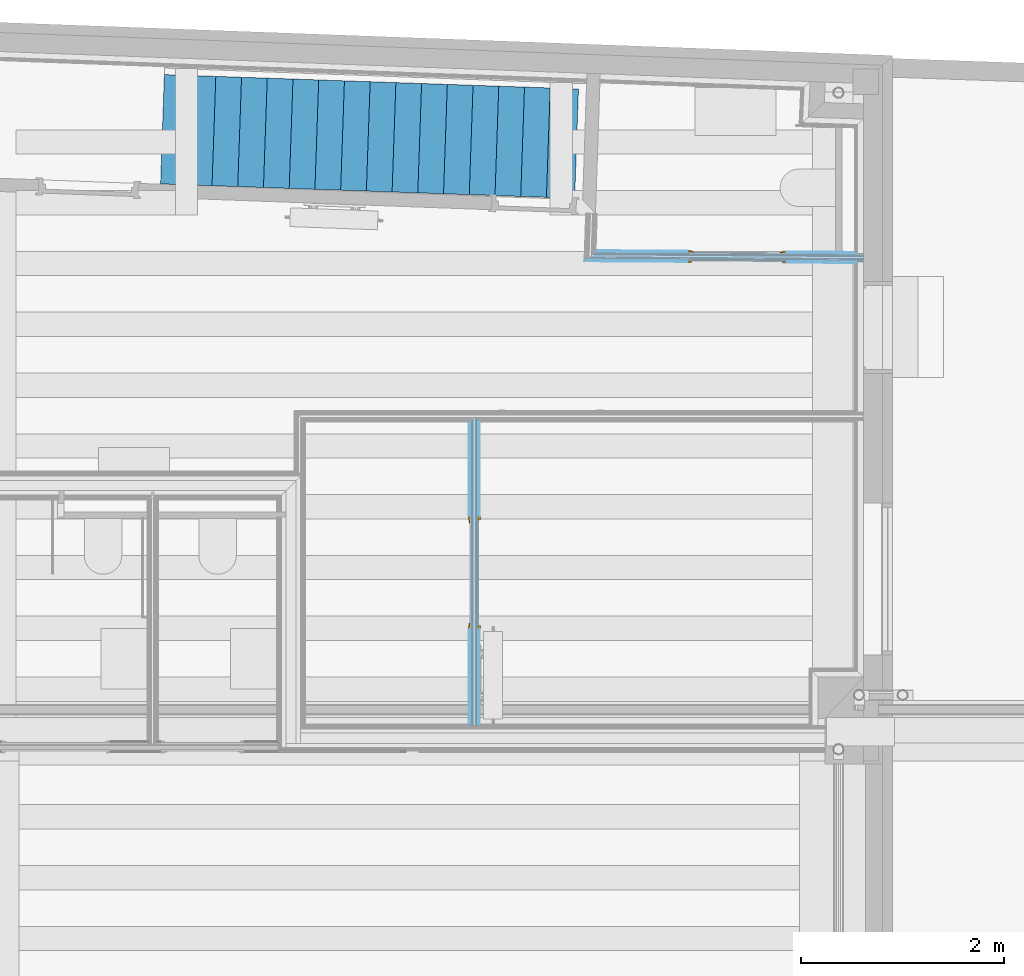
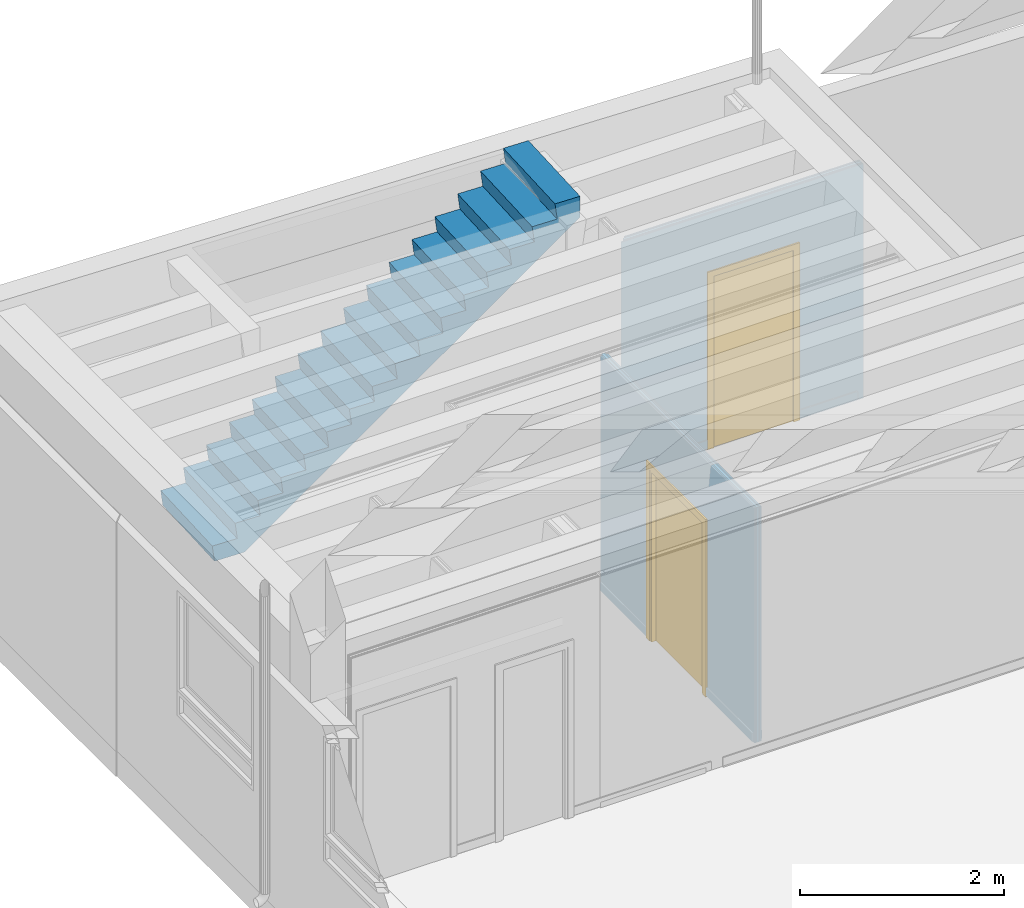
# One storey, part 26 of 106: 2 doors, 1 stair, 2 openings, 2 elements without a shape of their own, plus 14 elements that do not belong to this part.
"""IFC2X3 building model written with IfcOpenShell, lengths in metres."""

from ifc_helpers import new_model, entity, si_unit, converted_unit, derived_unit, money_unit, direction, frame, frame_2d, origin_with_axes, place, context, subcontext, project, spatial, polyline, rectangle, outline, extrude, faceted_brep, material, type_object, element, fill, aggregate, save


model = new_model("IFC2X3")

# Units and contexts
model_context = context("Model", 3, precision=1e-05, world=origin_with_axes(), true_north=direction((0.0, 1.0)))
body_context = subcontext(model_context, "Body", "Model", "MODEL_VIEW", scale=1.0)
ifc_project = project(units=[si_unit("LENGTHUNIT", "METRE"), si_unit("AREAUNIT", "SQUARE_METRE"), si_unit("VOLUMEUNIT", "CUBIC_METRE"), si_unit("ABSORBEDDOSEUNIT", "GRAY"), si_unit("AMOUNTOFSUBSTANCEUNIT", "MOLE"), si_unit("DOSEEQUIVALENTUNIT", "SIEVERT"), si_unit("ELECTRICCAPACITANCEUNIT", "FARAD"), si_unit("ELECTRICCHARGEUNIT", "COULOMB"), si_unit("ELECTRICCONDUCTANCEUNIT", "SIEMENS"), si_unit("ELECTRICCURRENTUNIT", "AMPERE"), si_unit("ELECTRICRESISTANCEUNIT", "OHM"), si_unit("ELECTRICVOLTAGEUNIT", "VOLT"), si_unit("ENERGYUNIT", "JOULE"), si_unit("FORCEUNIT", "NEWTON"), si_unit("FREQUENCYUNIT", "HERTZ"), si_unit("ILLUMINANCEUNIT", "LUX"), si_unit("INDUCTANCEUNIT", "HENRY"), si_unit("LUMINOUSFLUXUNIT", "LUMEN"), si_unit("LUMINOUSINTENSITYUNIT", "CANDELA"), si_unit("MAGNETICFLUXDENSITYUNIT", "TESLA"), si_unit("MAGNETICFLUXUNIT", "WEBER"), si_unit("MASSUNIT", "GRAM"), converted_unit("PLANEANGLEUNIT", "degree", entity("IfcReal", 0.0174532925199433), si_unit("PLANEANGLEUNIT", "RADIAN"), dimensions=[0, 0, 0, 0, 0, 0, 0]), si_unit("POWERUNIT", "WATT"), si_unit("PRESSUREUNIT", "PASCAL"), si_unit("RADIOACTIVITYUNIT", "BECQUEREL"), si_unit("SOLIDANGLEUNIT", "STERADIAN"), si_unit("THERMODYNAMICTEMPERATUREUNIT", "KELVIN"), si_unit("TIMEUNIT", "SECOND"), derived_unit("ACCELERATIONUNIT", [(si_unit("LENGTHUNIT", "METRE"), 1), (si_unit("TIMEUNIT", "SECOND"), -2)]), derived_unit("ANGULARVELOCITYUNIT", [(converted_unit("PLANEANGLEUNIT", "degree", entity("IfcReal", 0.0174532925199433), si_unit("PLANEANGLEUNIT", "RADIAN"), dimensions=[0, 0, 0, 0, 0, 0, 0]), 1), (si_unit("TIMEUNIT", "SECOND"), -1)]), derived_unit("CURVATUREUNIT", [(converted_unit("PLANEANGLEUNIT", "degree", entity("IfcReal", 0.0174532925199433), si_unit("PLANEANGLEUNIT", "RADIAN"), dimensions=[0, 0, 0, 0, 0, 0, 0]), 1), (si_unit("LENGTHUNIT", "METRE"), -1)]), derived_unit("DYNAMICVISCOSITYUNIT", [(si_unit("PRESSUREUNIT", "PASCAL"), 1), (si_unit("TIMEUNIT", "SECOND"), 1)]), derived_unit("HEATFLUXDENSITYUNIT", [(si_unit("POWERUNIT", "WATT"), 1), (si_unit("LENGTHUNIT", "METRE"), -2)]), derived_unit("HEATINGVALUEUNIT", [(si_unit("ENERGYUNIT", "JOULE"), 1), (si_unit("MASSUNIT", "GRAM"), -1)]), derived_unit("INTEGERCOUNTRATEUNIT", [(si_unit("TIMEUNIT", "SECOND"), -1)]), derived_unit("IONCONCENTRATIONUNIT", [(si_unit("MASSUNIT", "GRAM"), 1), (si_unit("VOLUMEUNIT", "CUBIC_METRE"), -1)]), derived_unit("ISOTHERMALMOISTURECAPACITYUNIT", [(si_unit("VOLUMEUNIT", "CUBIC_METRE"), 1), (si_unit("MASSUNIT", "GRAM"), -1)]), derived_unit("KINEMATICVISCOSITYUNIT", [(si_unit("AREAUNIT", "SQUARE_METRE"), 1), (si_unit("TIMEUNIT", "SECOND"), -1)]), derived_unit("LINEARFORCEUNIT", [(si_unit("FORCEUNIT", "NEWTON"), 1), (si_unit("LENGTHUNIT", "METRE"), -1)]), derived_unit("LINEARMOMENTUNIT", [(si_unit("FORCEUNIT", "NEWTON"), 1), (si_unit("LENGTHUNIT", "METRE"), -1)]), derived_unit("LINEARSTIFFNESSUNIT", [(si_unit("FORCEUNIT", "NEWTON"), 1), (si_unit("LENGTHUNIT", "METRE"), -1)]), derived_unit("LINEARVELOCITYUNIT", [(si_unit("LENGTHUNIT", "METRE"), 1), (si_unit("TIMEUNIT", "SECOND"), -1)]), derived_unit("LUMINOUSINTENSITYDISTRIBUTIONUNIT", [(si_unit("LUMINOUSINTENSITYUNIT", "CANDELA"), 1), (si_unit("LUMINOUSFLUXUNIT", "LUMEN"), -1)]), derived_unit("MASSDENSITYUNIT", [(si_unit("MASSUNIT", "GRAM"), 1), (si_unit("VOLUMEUNIT", "CUBIC_METRE"), -1)]), derived_unit("MASSFLOWRATEUNIT", [(si_unit("MASSUNIT", "GRAM"), 1), (si_unit("TIMEUNIT", "SECOND"), -1)]), derived_unit("MASSPERLENGTHUNIT", [(si_unit("MASSUNIT", "GRAM"), 1), (si_unit("LENGTHUNIT", "METRE"), -1)]), derived_unit("MODULUSOFELASTICITYUNIT", [(si_unit("FORCEUNIT", "NEWTON"), 1), (si_unit("AREAUNIT", "SQUARE_METRE"), -1)]), derived_unit("MODULUSOFLINEARSUBGRADEREACTIONUNIT", [(si_unit("FORCEUNIT", "NEWTON"), 1), (si_unit("LENGTHUNIT", "METRE"), -2)]), derived_unit("MODULUSOFROTATIONALSUBGRADEREACTIONUNIT", [(si_unit("FORCEUNIT", "NEWTON"), 1), (si_unit("LENGTHUNIT", "METRE"), 1)]), derived_unit("MODULUSOFSUBGRADEREACTIONUNIT", [(si_unit("FORCEUNIT", "NEWTON"), 1), (si_unit("VOLUMEUNIT", "CUBIC_METRE"), -1)]), derived_unit("MOISTUREDIFFUSIVITYUNIT", [(si_unit("VOLUMEUNIT", "CUBIC_METRE"), 1), (si_unit("TIMEUNIT", "SECOND"), -1)]), derived_unit("MOLECULARWEIGHTUNIT", [(si_unit("MASSUNIT", "GRAM"), 1), (si_unit("AMOUNTOFSUBSTANCEUNIT", "MOLE"), -1)]), derived_unit("PLANARFORCEUNIT", [(si_unit("FORCEUNIT", "NEWTON"), 1), (si_unit("LENGTHUNIT", "METRE"), -2)]), derived_unit("ROTATIONALFREQUENCYUNIT", [(si_unit("TIMEUNIT", "SECOND"), -1)]), derived_unit("ROTATIONALMASSUNIT", [(si_unit("MASSUNIT", "GRAM"), 1), (si_unit("LENGTHUNIT", "METRE"), 2)]), derived_unit("ROTATIONALSTIFFNESSUNIT", [(si_unit("FORCEUNIT", "NEWTON"), 1), (si_unit("LENGTHUNIT", "METRE"), 1), (converted_unit("PLANEANGLEUNIT", "degree", entity("IfcReal", 0.0174532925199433), si_unit("PLANEANGLEUNIT", "RADIAN"), dimensions=[0, 0, 0, 0, 0, 0, 0]), -1)]), derived_unit("SECTIONAREAINTEGRALUNIT", [(si_unit("LENGTHUNIT", "METRE"), 5)]), derived_unit("SECTIONMODULUSUNIT", [(si_unit("LENGTHUNIT", "METRE"), 3)]), derived_unit("SHEARMODULUSUNIT", [(si_unit("FORCEUNIT", "NEWTON"), 1), (si_unit("AREAUNIT", "SQUARE_METRE"), -1)]), derived_unit("SOUNDPOWERUNIT", [(si_unit("ENERGYUNIT", "JOULE"), 1), (si_unit("TIMEUNIT", "SECOND"), -1)]), derived_unit("SPECIFICHEATCAPACITYUNIT", [(si_unit("FORCEUNIT", "NEWTON"), 1), (si_unit("MASSUNIT", "GRAM"), -1), (si_unit("THERMODYNAMICTEMPERATUREUNIT", "KELVIN"), -1)]), derived_unit("TEMPERATUREGRADIENTUNIT", [(si_unit("THERMODYNAMICTEMPERATUREUNIT", "KELVIN"), 1), (si_unit("LENGTHUNIT", "METRE"), -1)]), derived_unit("THERMALADMITTANCEUNIT", [(si_unit("POWERUNIT", "WATT"), 1), (si_unit("AREAUNIT", "SQUARE_METRE"), -1), (si_unit("THERMODYNAMICTEMPERATUREUNIT", "KELVIN"), -1)]), derived_unit("THERMALCONDUCTANCEUNIT", [(si_unit("POWERUNIT", "WATT"), 1), (si_unit("LENGTHUNIT", "METRE"), -1), (si_unit("THERMODYNAMICTEMPERATUREUNIT", "KELVIN"), -1)]), derived_unit("THERMALEXPANSIONCOEFFICIENTUNIT", [(si_unit("THERMODYNAMICTEMPERATUREUNIT", "KELVIN"), -1)]), derived_unit("THERMALRESISTANCEUNIT", [(si_unit("AREAUNIT", "SQUARE_METRE"), 1), (si_unit("POWERUNIT", "WATT"), -1)]), derived_unit("THERMALTRANSMITTANCEUNIT", [(si_unit("POWERUNIT", "WATT"), 1), (si_unit("AREAUNIT", "SQUARE_METRE"), -1), (si_unit("THERMODYNAMICTEMPERATUREUNIT", "KELVIN"), -1)]), derived_unit("TORQUEUNIT", [(si_unit("FORCEUNIT", "NEWTON"), 1), (si_unit("LENGTHUNIT", "METRE"), 1)]), derived_unit("VAPORPERMEABILITYUNIT", [(si_unit("MASSUNIT", "GRAM"), 1), (si_unit("TIMEUNIT", "SECOND"), -1)]), derived_unit("VOLUMETRICFLOWRATEUNIT", [(si_unit("VOLUMEUNIT", "CUBIC_METRE"), 1), (si_unit("TIMEUNIT", "SECOND"), -1)]), derived_unit("WARPINGCONSTANTUNIT", [(si_unit("LENGTHUNIT", "METRE"), 6)]), derived_unit("WARPINGMOMENTUNIT", [(si_unit("FORCEUNIT", "NEWTON"), 1), (si_unit("LENGTHUNIT", "METRE"), 2)]), money_unit("GBP")], contexts=[model_context])

# Site, building, storey, space
site_placement = place(None, origin_with_axes())
site = spatial("IfcSite", under=ifc_project, at=site_placement, Name="Site", CompositionType="ELEMENT")
building_placement = place(site_placement, origin_with_axes())
building = spatial("IfcBuilding", under=site, at=building_placement, Name="Building01", CompositionType="ELEMENT")
storey_placement = place(building_placement, origin_with_axes())
storey = spatial("IfcBuildingStorey", under=building, at=storey_placement, Name="GF", CompositionType="ELEMENT", Elevation=0.0)
space_placement = place(storey_placement, frame((8.552822, 20.936203, 0.217025), z_axis=(0.0, 0.0, 1.0), x_axis=(-0.99931258, 0.03707243, 0.0)))
space = spatial("IfcSpace", under=storey, at=space_placement, Name="01", CompositionType="ELEMENT", InteriorOrExteriorSpace="NOTDEFINED")

# Door
ifc_material_1 = material(Name="A_BSUK_Doors")
door_style_1 = type_object("IfcDoorStyle", Name="A-Doors-SingleFlush", ConstructionType="USERDEFINED", OperationType="SINGLE_SWING_RIGHT", ParameterTakesPrecedence=False, Sizeable=False)
wall_1_placement = place(storey_placement, frame((9.154265, 19.280573, 0.148), z_axis=(0.0, 0.0, 1.0), x_axis=(-0.99997749, 0.00671026, 0.0)))
opening_1_placement = place(wall_1_placement, frame((0.755168, -0.042, 0.0), z_axis=(0.0, 0.0, 1.0), x_axis=(1.0, 0.0, 0.0)))
door_1_placement = place(opening_1_placement, frame((0.042237, 0.094895, 0.0), z_axis=(0.0, 0.0, 1.0), x_axis=(0.99999689, -0.00249226, 0.0)))
door_1 = element("IfcDoor", 1, at=door_1_placement, inside=space, type_object=door_style_1, material=ifc_material_1, Name="0.11", ObjectType="A-Doors-SingleFlush", OverallHeight=2.12700000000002, OverallWidth=1.03800000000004, context=body_context, shape_type="Brep", body=[
    faceted_brep([(0.9, -0.099, 0.0), (0.969, -0.099, 0.0), (0.969, -0.099, 2.127), (-0.069, -0.099, 2.127), (-0.069, -0.099, 0.0), (0.0, -0.099, 0.0), (0.0, -0.099, 2.058), (0.9, -0.099, 2.058), (-0.069, -0.08, 0.0), (-0.069, -0.08, 2.127), (0.969, -0.08, 2.127), (0.969, -0.08, 0.0), (0.9, 0.019, 0.0), (0.969, 0.019, 0.0), (0.969, 0.0, 0.0), (0.942, 0.0, 0.0), (0.942, -0.08, 0.0), (0.9, 0.019, 2.058), (0.0, 0.019, 2.058), (0.0, 0.019, 0.0), (-0.069, 0.019, 0.0), (-0.069, 0.019, 2.127), (0.969, 0.019, 2.127), (0.969, 0.0, 2.127), (0.942, -0.08, 2.1), (0.942, 0.0, 2.1), (-0.042, -0.08, 2.1), (-0.042, 0.0, 2.1), (-0.042, -0.08, 0.0), (-0.042, 0.0, 0.0), (-0.069, 0.0, 2.127), (-0.069, 0.0, 0.0)], [[[0, 1, 2, 3, 4, 5, 6, 7]], [[8, 4, 3, 9]], [[10, 2, 1, 11]], [[9, 3, 2, 10]], [[12, 13, 14, 15, 16, 11, 1, 0]], [[7, 17, 12, 0]], [[6, 18, 17, 7]], [[18, 19, 20, 21, 22, 13, 12, 17]], [[5, 19, 18, 6]], [[13, 22, 23, 14]], [[24, 16, 15, 25]], [[26, 24, 25, 27]], [[11, 16, 24, 26, 28, 8, 9, 10]], [[27, 29, 28, 26]], [[25, 15, 14, 23, 30, 31, 29, 27]], [[5, 4, 8, 28, 29, 31, 20, 19]], [[30, 21, 20, 31]], [[23, 22, 21, 30]]]),
    faceted_brep([(0.0, -0.09, 2.058), (0.0, -0.04, 2.058), (0.0, -0.04, 0.0), (0.0, -0.09, 0.0), (0.875, -0.09, 0.0), (0.9, -0.09, 0.0), (0.9, -0.09, 2.058), (0.025, -0.09, 0.0), (0.025, -0.09, 2.033), (0.875, -0.09, 2.033), (0.875, -0.04, 0.0), (0.9, -0.04, 0.0), (0.9, -0.04, 2.058), (0.025, -0.04, 2.033), (0.025, -0.04, 0.0), (0.875, -0.04, 2.033)], [[[0, 1, 2, 3]], [[4, 5, 6, 0, 3, 7, 8, 9]], [[10, 11, 5, 4]], [[6, 12, 1, 0]], [[5, 11, 12, 6]], [[13, 14, 2, 1, 12, 11, 10, 15]], [[7, 14, 13, 8]], [[7, 3, 2, 14]], [[9, 15, 10, 4]], [[8, 13, 15, 9]]]),
    faceted_brep([(0.9, -0.04, 0.0), (0.9, 0.0, 0.0), (0.9, 0.0, 2.058), (0.9, -0.04, 2.058), (0.0, -0.04, 2.058), (0.0, 0.0, 2.058), (0.0, 0.0, 0.0), (0.0, -0.04, 0.0)], [[[0, 1, 2, 3]], [[4, 5, 6, 7]], [[7, 6, 1, 0]], [[3, 4, 7, 0]], [[3, 2, 5, 4]], [[1, 6, 5, 2]]]),
])

door_style_2 = type_object("IfcDoorStyle", Name="A-Doors-DoubleFlush", ConstructionType="USERDEFINED", OperationType="DOUBLE_DOOR_SINGLE_SWING", ParameterTakesPrecedence=False, Sizeable=False)
wall_2_placement = place(storey_placement, frame((5.301256, 17.690571, 0.148), z_axis=(0.0, 0.0, 1.0), x_axis=(0.0, -1.0, 0.0)))
opening_2_placement = place(wall_2_placement, frame((0.971779, -0.042, -4e-06), z_axis=(0.0, 0.0, 1.0), x_axis=(1.0, 0.0, 0.0)))
door_2_placement = place(opening_2_placement, frame((0.042007, 0.094997, 4e-06), z_axis=(0.0, 0.0, 1.0), x_axis=(1.0, -3.756e-05, 0.0)))
door_2 = element("IfcDoor", 2, at=door_2_placement, inside=space, type_object=door_style_2, material=ifc_material_1, Name="0.17", ObjectType="A-Doors-DoubleFlush", OverallHeight=2.12700000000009, OverallWidth=1.17800000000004, context=body_context, shape_type="Brep", body=[
    faceted_brep([(0.0, -0.099, 2.058), (1.04, -0.099, 2.058), (1.04, -0.099, 0.0), (1.109, -0.099, 0.0), (1.109, -0.099, 2.127), (-0.069, -0.099, 2.127), (-0.069, -0.099, 0.0), (0.0, -0.099, 0.0), (1.109, -0.08, 2.127), (1.109, -0.08, 0.0), (-0.069, -0.08, 0.0), (-0.069, -0.08, 2.127), (-0.042, -0.08, 0.0), (-0.042, 0.0, 0.0), (-0.069, 0.0, 0.0), (-0.069, 0.019, 0.0), (0.0, 0.019, 0.0), (0.0, 0.019, 2.058), (1.04, 0.019, 2.058), (-0.069, 0.019, 2.127), (1.109, 0.019, 2.127), (1.109, 0.019, 0.0), (1.04, 0.019, 0.0), (-0.069, 0.0, 2.127), (-0.042, 0.0, 2.1), (-0.042, -0.08, 2.1), (1.082, 0.0, 2.1), (1.082, -0.08, 2.1), (1.082, -0.08, 0.0), (1.082, 0.0, 0.0), (1.109, 0.0, 0.0), (1.109, 0.0, 2.127)], [[[0, 1, 2, 3, 4, 5, 6, 7]], [[8, 4, 3, 9]], [[10, 6, 5, 11]], [[11, 5, 4, 8]], [[7, 6, 10, 12, 13, 14, 15, 16]], [[7, 16, 17, 0]], [[0, 17, 18, 1]], [[17, 16, 15, 19, 20, 21, 22, 18]], [[1, 18, 22, 2]], [[14, 23, 19, 15]], [[24, 13, 12, 25]], [[26, 24, 25, 27]], [[11, 8, 9, 28, 27, 25, 12, 10]], [[27, 28, 29, 26]], [[26, 29, 30, 31, 23, 14, 13, 24]], [[22, 21, 30, 29, 28, 9, 3, 2]], [[30, 21, 20, 31]], [[31, 20, 19, 23]]]),
    faceted_brep([(1.04, -0.09, 0.0), (1.04, -0.04, 0.0), (1.04, -0.04, 2.058), (1.04, -0.09, 2.058), (0.025, -0.09, 2.033), (1.015, -0.09, 2.033), (1.015, -0.09, 0.0), (0.0, -0.09, 2.058), (0.0, -0.09, 0.0), (0.025, -0.09, 0.0), (0.0, -0.04, 0.0), (0.025, -0.04, 0.0), (0.0, -0.04, 2.058), (0.025, -0.04, 2.033), (1.015, -0.04, 0.0), (1.015, -0.04, 2.033)], [[[0, 1, 2, 3]], [[4, 5, 6, 0, 3, 7, 8, 9]], [[9, 8, 10, 11]], [[3, 2, 12, 7]], [[7, 12, 10, 8]], [[13, 11, 10, 12, 2, 1, 14, 15]], [[5, 15, 14, 6]], [[14, 1, 0, 6]], [[9, 11, 13, 4]], [[4, 13, 15, 5]]]),
    faceted_brep([(0.0, -0.04, 2.058), (0.0, 0.0, 2.058), (0.0, 0.0, 0.0), (0.0, -0.04, 0.0), (0.52, -0.04, 0.0), (0.52, 0.0, 0.0), (0.52, 0.0, 2.058), (0.52, -0.04, 2.058)], [[[0, 1, 2, 3]], [[4, 5, 6, 7]], [[3, 2, 5, 4]], [[3, 4, 7, 0]], [[7, 6, 1, 0]], [[1, 6, 5, 2]]]),
    faceted_brep([(0.52, -0.04, 2.058), (0.52, 0.0, 2.058), (0.52, 0.0, 0.0), (0.52, -0.04, 0.0), (1.04, -0.04, 0.0), (1.04, 0.0, 0.0), (1.04, 0.0, 2.058), (1.04, -0.04, 2.058)], [[[0, 1, 2, 3]], [[4, 5, 6, 7]], [[3, 2, 5, 4]], [[3, 4, 7, 0]], [[7, 6, 1, 0]], [[1, 6, 5, 2]]]),
])

# Stair
ifc_material_2 = material(Name="S_BSUK_Stairs")
stair_placement = place(storey_placement, frame((2.28075, 21.073751, 0.148), z_axis=(0.0, 0.0, 1.0), x_axis=(1.0, 0.0, 0.0)))
element("IfcStair", 3, at=stair_placement, inside=storey, material=ifc_material_2, Name="S-Stairs-ConcreteRC", ObjectType="S-Stairs-ConcreteRC", ShapeType="NOTDEFINED", context=body_context, shape_type="Brep", body=[
    faceted_brep([(4.024095, -1.220309, 2.787324), (4.024095, -1.220309, 3.037), (3.745263, -1.210632, 3.037), (3.770248, -1.211499, 2.847188), (3.491416, -1.201822, 2.847188), (3.516401, -1.202689, 2.657375), (3.237569, -1.193012, 2.657375), (3.262554, -1.193879, 2.467563), (2.983722, -1.184202, 2.467563), (3.008707, -1.185069, 2.27775), (2.729874, -1.175392, 2.27775), (2.754859, -1.176259, 2.087937), (2.476027, -1.166582, 2.087937), (2.501012, -1.167449, 1.898125), (2.22218, -1.157772, 1.898125), (2.247165, -1.158639, 1.708313), (1.968333, -1.148962, 1.708313), (1.993318, -1.149829, 1.5185), (1.714486, -1.140152, 1.5185), (1.739471, -1.14102, 1.328688), (1.460639, -1.131343, 1.328688), (1.485624, -1.13221, 1.138875), (1.206791, -1.122533, 1.138875), (1.231776, -1.1234, 0.949063), (0.952944, -1.113723, 0.949063), (0.977929, -1.11459, 0.75925), (0.699097, -1.104913, 0.75925), (0.724082, -1.10578, 0.569438), (0.44525, -1.096103, 0.569438), (0.470235, -1.09697, 0.379625), (0.191403, -1.087293, 0.379625), (0.216388, -1.08816, 0.189813), (-0.062444, -1.078483, 0.189813), (-0.037459, -1.07935, 0.0), (0.296446, -1.090939, 0.0), (4.061555, -0.140959, 2.787324), (4.061555, -0.140959, 3.037), (3.782723, -0.131282, 3.037), (3.807708, -0.132149, 2.847188), (3.528875, -0.122472, 2.847188), (3.55386, -0.123339, 2.657375), (3.275028, -0.113662, 2.657375), (3.300013, -0.114529, 2.467563), (3.021181, -0.104852, 2.467563), (3.046166, -0.105719, 2.27775), (2.767334, -0.096042, 2.27775), (2.792319, -0.096909, 2.087937), (2.513487, -0.087232, 2.087937), (2.538472, -0.088099, 1.898125), (2.25964, -0.078422, 1.898125), (2.284625, -0.079289, 1.708313), (2.005792, -0.069612, 1.708313), (2.030777, -0.070479, 1.5185), (1.751945, -0.060802, 1.5185), (1.77693, -0.061669, 1.328688), (1.498098, -0.051992, 1.328688), (1.523083, -0.052859, 1.138875), (1.244251, -0.043182, 1.138875), (1.269236, -0.04405, 0.949063), (0.990404, -0.034373, 0.949063), (1.015389, -0.03524, 0.75925), (0.736557, -0.025563, 0.75925), (0.761542, -0.02643, 0.569438), (0.482709, -0.016753, 0.569438), (0.507694, -0.01762, 0.379625), (0.228862, -0.007943, 0.379625), (0.253847, -0.00881, 0.189813), (-0.024985, 0.000867, 0.189813), (0.0, 0.0, 0.0), (0.333905, -0.011588, 0.0)], [[[0, 1, 2, 3, 4, 5, 6, 7, 8, 9, 10, 11, 12, 13, 14, 15, 16, 17, 18, 19, 20, 21, 22, 23, 24, 25, 26, 27, 28, 29, 30, 31, 32, 33, 34]], [[35, 36, 1, 0]], [[36, 37, 2, 1]], [[37, 38, 3, 2]], [[38, 39, 4, 3]], [[39, 40, 5, 4]], [[40, 41, 6, 5]], [[41, 42, 7, 6]], [[42, 43, 8, 7]], [[43, 44, 9, 8]], [[44, 45, 10, 9]], [[45, 46, 11, 10]], [[46, 47, 12, 11]], [[47, 48, 13, 12]], [[48, 49, 14, 13]], [[49, 50, 15, 14]], [[50, 51, 16, 15]], [[51, 52, 17, 16]], [[52, 53, 18, 17]], [[53, 54, 19, 18]], [[54, 55, 20, 19]], [[55, 56, 21, 20]], [[56, 57, 22, 21]], [[57, 58, 23, 22]], [[58, 59, 24, 23]], [[59, 60, 25, 24]], [[60, 61, 26, 25]], [[61, 62, 27, 26]], [[62, 63, 28, 27]], [[63, 64, 29, 28]], [[64, 65, 30, 29]], [[65, 66, 31, 30]], [[66, 67, 32, 31]], [[67, 68, 33, 32]], [[68, 69, 34, 33]], [[69, 35, 0, 34]], [[35, 69, 68, 67, 66, 65, 64, 63, 62, 61, 60, 59, 58, 57, 56, 55, 54, 53, 52, 51, 50, 49, 48, 47, 46, 45, 44, 43, 42, 41, 40, 39, 38, 37, 36]]]),
])

# Wall, opening
wall_type = type_object("IfcWallType", Name="SHE_A-Walls_Type05b_Partition_80mm", PredefinedType="NOTDEFINED")
wall_1 = element("IfcWall", 4, at=wall_1_placement, inside=storey, type_object=wall_type, Name="5B", ObjectType="SHE_A-Walls_Type05b_Partition_80mm")
opening_1 = element("IfcOpeningElement", 5, at=opening_1_placement, cuts=wall_1, Name="Opening", ObjectType="Opening", context=body_context, shape_type="Brep", body=[
    faceted_brep([(0.000237, 0.095, 0.015), (0.98424, 0.095, 0.015), (0.98424, 0.095, 0.0), (0.000237, 0.095, 0.0), (0.000199, 0.08, 2.1), (0.000199, 0.08, 0.0), (0.000152, 0.08, 0.0), (0.000152, 0.08, 2.1), (0.984123, 0.067, 0.0), (0.984123, 0.067, 2.1), (0.98417, 0.067, 2.1), (0.98417, 0.067, 0.0), (0.000105, 0.042, 2.1), (0.000105, 0.042, 0.0), (7.1e-05, 0.042, 0.0), (7.1e-05, 0.042, 2.1), (0.984044, 0.03, 0.0), (0.984044, 0.03, 2.1), (0.984078, 0.03, 2.1), (0.984078, 0.03, 0.0), (3.7e-05, 0.015, 0.115), (0.0, 0.0, 0.115), (0.984003, 0.0, 0.115), (0.98404, 0.015, 0.115), (0.0, 0.0, 0.015), (0.984003, 0.0, 0.015), (3.7e-05, 0.015, 0.015), (0.98404, 0.015, 0.015), (0.98404, 0.015, 0.0), (0.98404, 0.015, 2.1), (3.7e-05, 0.015, 2.1), (7.5e-05, 0.03, 2.1), (7.5e-05, 0.03, 0.0), (3.7e-05, 0.015, 0.0), (4.1e-05, 0.03, 0.0), (0.000167, 0.067, 0.0), (0.00012, 0.067, 0.0), (0.984202, 0.08, 0.0), (0.984155, 0.08, 0.0), (0.984108, 0.042, 0.0), (0.984074, 0.042, 0.0), (0.984074, 0.042, 2.1), (0.984108, 0.042, 2.1), (0.984155, 0.08, 2.1), (0.984202, 0.08, 2.1), (0.98424, 0.095, 2.1), (0.000237, 0.095, 2.1), (0.00012, 0.067, 2.1), (0.000167, 0.067, 2.1), (4.1e-05, 0.03, 2.1), (0.000237, 0.095, 0.115), (0.98424, 0.095, 0.115), (0.000274, 0.11, 0.115), (0.000274, 0.11, 0.015), (0.984277, 0.11, 0.015), (0.984277, 0.11, 0.115)], [[[0, 1, 2, 3]], [[4, 5, 6, 7]], [[8, 9, 10, 11]], [[12, 13, 14, 15]], [[16, 17, 18, 19]], [[20, 21, 22, 23]], [[21, 24, 25, 22]], [[24, 26, 27, 25]], [[22, 25, 27, 28, 19, 18, 29, 23]], [[20, 30, 31, 32, 33, 26, 24, 21]], [[23, 29, 30, 20]], [[27, 26, 33, 28]], [[33, 32, 34, 14, 13, 35, 36, 6, 5, 3, 2, 37, 38, 8, 11, 39, 40, 16, 19, 28]], [[29, 18, 17, 41, 42, 10, 9, 43, 44, 45, 46, 4, 7, 47, 48, 12, 15, 49, 31, 30]], [[32, 31, 49, 34]], [[49, 15, 14, 34]], [[16, 40, 41, 17]], [[41, 40, 39, 42]], [[12, 48, 35, 13]], [[39, 11, 10, 42]], [[35, 48, 47, 36]], [[47, 7, 6, 36]], [[8, 38, 43, 9]], [[43, 38, 37, 44]], [[50, 46, 45, 51]], [[4, 46, 50, 52, 53, 0, 3, 5]], [[37, 2, 1, 54, 55, 51, 45, 44]], [[52, 50, 51, 55]], [[53, 52, 55, 54]], [[0, 53, 54, 1]]]),
])

fill(opening_1, door_1)

# Building element part
ifc_material_3 = material(Name="A_BSUK_Walls_Timber")
placement_1 = place(wall_1_placement, origin_with_axes())
building_element_part_1 = element("IfcBuildingElementPart", 6, at=placement_1, material=ifc_material_3, Name="1", context=body_context, shape_type="SweptSolid", body=[
    extrude(outline(polyline([(2.656967, -0.027), (0.072183, -0.027), (0.072283, -0.042), (2.640715, -0.042), (2.656967, -0.027)])), frame((0.0, 0.0, 0.015), z_axis=(0.0, 0.0, 1.0), x_axis=(1.0, 0.0, 0.0)), (0.0, 0.0, 1.0), 0.1),
])

ifc_material_4 = material(Name="A_BSUK_WallInternal_Finishes_Plasterboard")
building_element_part_2 = element("IfcBuildingElementPart", 7, at=placement_1, material=ifc_material_4, Name="2", context=body_context, shape_type="SweptSolid", body=[
    extrude(outline(polyline([(2.657371, -0.012), (8.1e-05, -0.012), (0.000181, -0.027), (2.656967, -0.027), (2.657371, -0.012)])), origin_with_axes(), (0.0, 0.0, 1.0), 2.812),
])

ifc_material_5 = material(Name="Air Cavity")
building_element_part_3 = element("IfcBuildingElementPart", 8, at=placement_1, material=ifc_material_5, Name="3", context=body_context, shape_type="SweptSolid", body=[
    extrude(outline(polyline([(2.657695, 0.0), (0.0, 0.0), (8.1e-05, -0.012), (2.657371, -0.012), (2.657695, 0.0)])), origin_with_axes(), (0.0, 0.0, 1.0), 2.812),
])

ifc_material_6 = material(Name="A_BSUK_Insulation")
building_element_part_4 = element("IfcBuildingElementPart", 9, at=placement_1, material=ifc_material_6, Name="4", context=body_context, shape_type="SweptSolid", body=[
    extrude(outline(polyline([(2.685378, 0.025), (-0.000168, 0.025), (0.0, 0.0), (2.684705, 0.0), (2.685378, 0.025)])), origin_with_axes(), (0.0, 0.0, 1.0), 2.812),
])

building_element_part_5 = element("IfcBuildingElementPart", 10, at=placement_1, material=ifc_material_5, Name="5", context=body_context, shape_type="SweptSolid", body=[
    extrude(outline(polyline([(2.685729, 0.038), (-0.000255, 0.038), (-0.000168, 0.025), (2.685378, 0.025), (2.685729, 0.038)])), origin_with_axes(), (0.0, 0.0, 1.0), 2.812),
])

building_element_part_6 = element("IfcBuildingElementPart", 11, at=placement_1, material=ifc_material_4, Name="6", context=body_context, shape_type="SweptSolid", body=[
    extrude(outline(polyline([(2.739153, 0.053), (-0.000356, 0.053), (-0.000255, 0.038), (2.723743, 0.038), (2.739153, 0.053)])), origin_with_axes(), (0.0, 0.0, 1.0), 2.812),
])

building_element_part_7 = element("IfcBuildingElementPart", 12, at=placement_1, material=ifc_material_3, Name="7", context=body_context, shape_type="SweptSolid", body=[
    extrude(outline(polyline([(2.754562, 0.068), (0.071545, 0.068), (0.071646, 0.053), (2.739153, 0.053), (2.754562, 0.068)])), frame((0.0, 0.0, 0.015), z_axis=(0.0, 0.0, 1.0), x_axis=(1.0, 0.0, 0.0)), (0.0, 0.0, 1.0), 0.1),
])

aggregate(wall_1, [building_element_part_1, building_element_part_2, building_element_part_3, building_element_part_4, building_element_part_5, building_element_part_6, building_element_part_7])

# Wall, opening
wall_2 = element("IfcWall", 13, at=wall_2_placement, inside=storey, type_object=wall_type, Name="5B", ObjectType="SHE_A-Walls_Type05b_Partition_80mm")
opening_2 = element("IfcOpeningElement", 14, at=opening_2_placement, cuts=wall_2, Name="Opening", ObjectType="Opening", context=body_context, shape_type="Brep", body=[
    faceted_brep([(1.124004, 0.015, 0.015004), (4e-06, 0.015, 0.015004), (4e-06, 0.015, 4e-06), (1.124004, 0.015, 4e-06), (1.124003, 0.0, 0.015004), (3e-06, 0.0, 0.015004), (1.124003, 0.0, 0.115004), (3e-06, 0.0, 0.115004), (1.124004, 0.03, 4e-06), (1.124004, 0.015, 0.115004), (1.124004, 0.03, 2.100004), (1.124004, 0.015, 2.100004), (4e-06, 0.015, 0.115004), (4e-06, 0.015, 2.100004), (4e-06, 0.03, 2.100004), (4e-06, 0.03, 4e-06), (1.124005, 0.042, 2.100004), (1.124006, 0.067, 2.100004), (1.124005, 0.067, 2.100004), (1.124006, 0.08, 2.100004), (1.124007, 0.095, 2.100004), (7e-06, 0.095, 2.100004), (6e-06, 0.08, 2.100004), (5e-06, 0.067, 2.100004), (6e-06, 0.067, 2.100004), (5e-06, 0.042, 2.100004), (5e-06, 0.042, 4e-06), (6e-06, 0.067, 4e-06), (5e-06, 0.067, 4e-06), (6e-06, 0.08, 4e-06), (7e-06, 0.095, 4e-06), (1.124007, 0.095, 4e-06), (1.124006, 0.08, 4e-06), (1.124005, 0.067, 4e-06), (1.124006, 0.067, 4e-06), (1.124005, 0.042, 4e-06), (7e-06, 0.095, 0.115004), (8e-06, 0.11, 0.115004), (8e-06, 0.11, 0.015004), (7e-06, 0.095, 0.015004), (1.124007, 0.095, 0.015004), (1.124008, 0.11, 0.015004), (1.124008, 0.11, 0.115004), (1.124007, 0.095, 0.115004)], [[[0, 1, 2, 3]], [[0, 4, 5, 1]], [[4, 6, 7, 5]], [[0, 3, 8, 9]], [[8, 10, 11, 9]], [[9, 6, 4, 0]], [[12, 13, 14, 15]], [[1, 5, 7, 12]], [[12, 15, 2, 1]], [[6, 9, 12, 7]], [[9, 11, 13, 12]], [[11, 10, 16, 17, 18, 19, 19, 20, 21, 22, 22, 23, 24, 25, 14, 13]], [[15, 26, 27, 28, 29, 29, 30, 31, 32, 32, 33, 34, 35, 8, 3, 2]], [[8, 35, 16, 10]], [[35, 34, 17, 16]], [[33, 18, 17, 34]], [[33, 32, 19, 18]], [[19, 32, 32, 19]], [[14, 25, 26, 15]], [[25, 24, 27, 26]], [[27, 24, 23, 28]], [[23, 22, 29, 28]], [[22, 29, 29, 22]], [[22, 21, 36, 37, 38, 39, 30, 29]], [[32, 31, 40, 41, 42, 43, 20, 19]], [[36, 21, 20, 43]], [[43, 42, 37, 36]], [[42, 41, 38, 37]], [[41, 40, 39, 38]], [[39, 40, 31, 30]]]),
])

fill(opening_2, door_2)

# Building element part
placement_2 = place(wall_2_placement, origin_with_axes())
building_element_part_8 = element("IfcBuildingElementPart", 15, at=placement_2, material=ifc_material_3, Name="1", context=body_context, shape_type="SweptSolid", body=[
    extrude(rectangle(XDim=2.983571, YDim=0.015, at=frame_2d((1.533786, -0.0345), x_axis=(-1.0, 0.0))), frame((0.0, 0.0, 0.015), z_axis=(0.0, 0.0, 1.0), x_axis=(1.0, 0.0, 0.0)), (0.0, 0.0, 1.0), 0.1),
])

building_element_part_9 = element("IfcBuildingElementPart", 16, at=placement_2, material=ifc_material_4, Name="2", context=body_context, shape_type="SweptSolid", body=[
    extrude(rectangle(XDim=3.013571, YDim=0.015, at=frame_2d((1.533786, -0.0195), x_axis=(-1.0, 0.0))), origin_with_axes(), (0.0, 0.0, 1.0), 2.812),
])

building_element_part_10 = element("IfcBuildingElementPart", 17, at=placement_2, material=ifc_material_5, Name="3", context=body_context, shape_type="SweptSolid", body=[
    extrude(rectangle(XDim=3.013571, YDim=0.012, at=frame_2d((1.533786, -0.006), x_axis=(-1.0, 0.0))), origin_with_axes(), (0.0, 0.0, 1.0), 2.812),
])

building_element_part_11 = element("IfcBuildingElementPart", 18, at=placement_2, material=ifc_material_6, Name="4", context=body_context, shape_type="SweptSolid", body=[
    extrude(rectangle(XDim=3.040571, YDim=0.025, at=frame_2d((1.520286, 0.0125), x_axis=(-1.0, 0.0))), origin_with_axes(), (0.0, 0.0, 1.0), 2.812),
])

building_element_part_12 = element("IfcBuildingElementPart", 19, at=placement_2, material=ifc_material_5, Name="5", context=body_context, shape_type="SweptSolid", body=[
    extrude(rectangle(XDim=3.040571, YDim=0.013, at=frame_2d((1.520286, 0.0315), x_axis=(-1.0, 0.0))), origin_with_axes(), (0.0, 0.0, 1.0), 2.812),
])

building_element_part_13 = element("IfcBuildingElementPart", 20, at=placement_2, material=ifc_material_4, Name="6", context=body_context, shape_type="SweptSolid", body=[
    extrude(rectangle(XDim=3.013571, YDim=0.015, at=frame_2d((1.533786, 0.0455), x_axis=(-1.0, 0.0))), origin_with_axes(), (0.0, 0.0, 1.0), 2.812),
])

building_element_part_14 = element("IfcBuildingElementPart", 21, at=placement_2, material=ifc_material_3, Name="7", context=body_context, shape_type="SweptSolid", body=[
    extrude(rectangle(XDim=2.983571, YDim=0.015, at=frame_2d((1.533786, 0.0605), x_axis=(-1.0, 0.0))), frame((0.0, 0.0, 0.015), z_axis=(0.0, 0.0, 1.0), x_axis=(1.0, 0.0, 0.0)), (0.0, 0.0, 1.0), 0.1),
])

aggregate(wall_2, [building_element_part_8, building_element_part_9, building_element_part_10, building_element_part_11, building_element_part_12, building_element_part_13, building_element_part_14])

save(model, "model.ifc")
